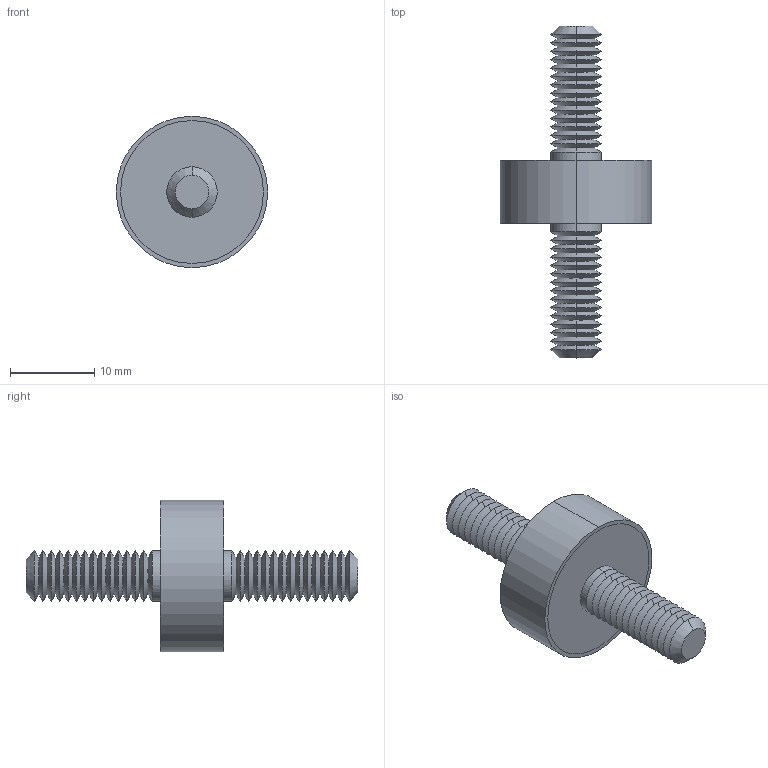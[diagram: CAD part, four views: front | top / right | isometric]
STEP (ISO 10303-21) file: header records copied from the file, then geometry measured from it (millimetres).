
FILE_DESCRIPTION (( 'STEP AP203' ), '1' );
FILE_NAME ('61040.W0181.step', '2019-09-24T22:25:38', ( '' ), ( '' ), 'SwSTEP 2.0', 'SolidWorks 2017', '' );
FILE_SCHEMA (( 'CONFIG_CONTROL_DESIGN' ));
Length unit declared in the file: millimetre
Products named in the file (4): Part2_61040.W0181; Part3_61040.W0181; 61040.W0181; Part1_61040.W0181
Assembly tree (3 placements, depth 2):
  61040.W0181
    Part1_61040.W0181
    Part2_61040.W0181
    Part3_61040.W0181
Bounding box: 18 x 39.5 x 18 mm (x, y, z)
Volume: 2590 mm3; surface area: 2901.7 mm2
Topology: 3 solids, 3 shells, 140 faces, 274 edges, 144 vertices
Faces by surface type: cone 116, cylinder 14, plane 10
Entity records: 3908 total; most frequent: DIRECTION 710, CARTESIAN_POINT 564, ORIENTED_EDGE 548, AXIS2_PLACEMENT_3D 290, EDGE_CURVE 274, CIRCLE 144, VERTEX_POINT 144, EDGE_LOOP 144
